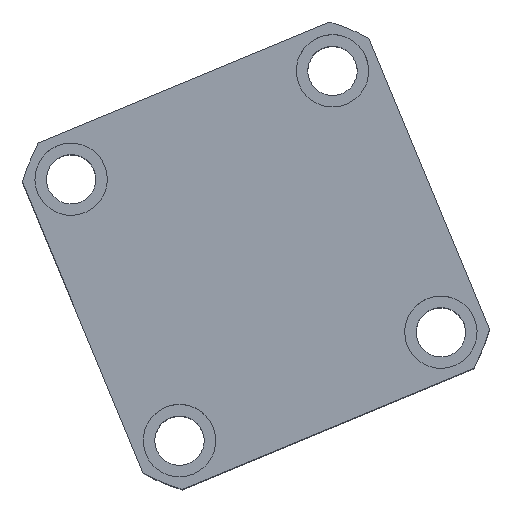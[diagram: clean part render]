
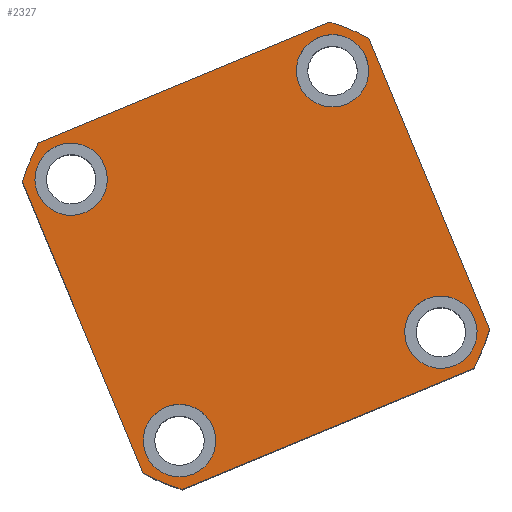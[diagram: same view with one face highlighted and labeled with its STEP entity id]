
A CAD part, top view. The second image highlights one B-rep face of the part: STEP entity #2327.
In plain terms, the highlighted planar face has unit normal (0, 0, 1) as drawn and (0, 0, -1) by its records, which use the part's own axes.
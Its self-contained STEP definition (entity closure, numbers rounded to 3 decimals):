
#234 = CIRCLE ( 'NONE', #5770, 74.5 ) ;
#324 = DIRECTION ( 'NONE',  ( 1., 0., 0. ) ) ;
#359 = DIRECTION ( 'NONE',  ( 0., 0., -1. ) ) ;
#535 = VECTOR ( 'NONE', #4365, 1000. ) ;
#548 = VERTEX_POINT ( 'NONE', #20097 ) ;
#635 = EDGE_CURVE ( 'NONE', #12505, #6672, #7931, .T. ) ;
#694 = CARTESIAN_POINT ( 'NONE',  ( 43., 43., 0. ) ) ;
#735 = DIRECTION ( 'NONE',  ( 1., 0., 0. ) ) ;
#981 = LINE ( 'NONE', #2078, #4204 ) ;
#1013 = ORIENTED_EDGE ( 'NONE', *, *, #20473, .F. ) ;
#1050 = EDGE_CURVE ( 'NONE', #17360, #6897, #17304, .T. ) ;
#1313 = VERTEX_POINT ( 'NONE', #15744 ) ;
#1322 = DIRECTION ( 'NONE',  ( 0., 0., -1. ) ) ;
#1328 = CARTESIAN_POINT ( 'NONE',  ( -32., -43., 0. ) ) ;
#1535 = CARTESIAN_POINT ( 'NONE',  ( 32., -43., 0. ) ) ;
#1641 = CIRCLE ( 'NONE', #3497, 11. ) ;
#1742 = EDGE_LOOP ( 'NONE', ( #1989, #11855 ) ) ;
#1839 = CARTESIAN_POINT ( 'NONE',  ( 43., 43., 0. ) ) ;
#1971 = FACE_BOUND ( 'NONE', #1742, .T. ) ;
#1989 = ORIENTED_EDGE ( 'NONE', *, *, #10946, .F. ) ;
#2046 = DIRECTION ( 'NONE',  ( 0., 0., -1. ) ) ;
#2078 = CARTESIAN_POINT ( 'NONE',  ( -57., 57., 0. ) ) ;
#2264 = DIRECTION ( 'NONE',  ( -1., 0., 0. ) ) ;
#2327 = ADVANCED_FACE ( 'NONE', ( #9867, #1971, #17787, #13539, #9380 ), #7170, .F. ) ;
#2407 = EDGE_CURVE ( 'NONE', #15916, #4663, #16766, .T. ) ;
#2481 = ORIENTED_EDGE ( 'NONE', *, *, #13815, .F. ) ;
#2812 = CARTESIAN_POINT ( 'NONE',  ( -54., 43., 0. ) ) ;
#2848 = CARTESIAN_POINT ( 'NONE',  ( -43., -43., 0. ) ) ;
#2849 = ORIENTED_EDGE ( 'NONE', *, *, #2407, .F. ) ;
#3164 = ORIENTED_EDGE ( 'NONE', *, *, #5039, .F. ) ;
#3384 = CARTESIAN_POINT ( 'NONE',  ( 0., 0., 0. ) ) ;
#3419 = CIRCLE ( 'NONE', #4755, 11. ) ;
#3456 = DIRECTION ( 'NONE',  ( -1., 0., 0. ) ) ;
#3497 = AXIS2_PLACEMENT_3D ( 'NONE', #694, #11703, #2264 ) ;
#4204 = VECTOR ( 'NONE', #13098, 1000. ) ;
#4365 = DIRECTION ( 'NONE',  ( 0., 1., 0. ) ) ;
#4385 = CARTESIAN_POINT ( 'NONE',  ( 57., 57., 0. ) ) ;
#4470 = DIRECTION ( 'NONE',  ( -1., 0., 0. ) ) ;
#4663 = VERTEX_POINT ( 'NONE', #10846 ) ;
#4755 = AXIS2_PLACEMENT_3D ( 'NONE', #2848, #13846, #4470 ) ;
#4881 = DIRECTION ( 'NONE',  ( 0., 0., -1. ) ) ;
#4963 = CARTESIAN_POINT ( 'NONE',  ( -57., 57., 0. ) ) ;
#4973 = AXIS2_PLACEMENT_3D ( 'NONE', #6123, #17104, #7710 ) ;
#5007 = DIRECTION ( 'NONE',  ( 1., 0., 0. ) ) ;
#5039 = EDGE_CURVE ( 'NONE', #548, #12591, #981, .T. ) ;
#5231 = CARTESIAN_POINT ( 'NONE',  ( -57., -47.971, 0. ) ) ;
#5434 = EDGE_LOOP ( 'NONE', ( #2849, #11711 ) ) ;
#5498 = AXIS2_PLACEMENT_3D ( 'NONE', #1839, #12868, #3456 ) ;
#5770 = AXIS2_PLACEMENT_3D ( 'NONE', #19220, #9737, #324 ) ;
#5880 = AXIS2_PLACEMENT_3D ( 'NONE', #9773, #359, #11364 ) ;
#6123 = CARTESIAN_POINT ( 'NONE',  ( 0., 0., 0. ) ) ;
#6672 = VERTEX_POINT ( 'NONE', #7926 ) ;
#6880 = VERTEX_POINT ( 'NONE', #5231 ) ;
#6885 = CIRCLE ( 'NONE', #12297, 11. ) ;
#6897 = VERTEX_POINT ( 'NONE', #8441 ) ;
#6931 = CIRCLE ( 'NONE', #8396, 74.5 ) ;
#7170 = PLANE ( 'NONE',  #9735 ) ;
#7191 = DIRECTION ( 'NONE',  ( 1., 0., 0. ) ) ;
#7412 = DIRECTION ( 'NONE',  ( 0., 0., 1. ) ) ;
#7710 = DIRECTION ( 'NONE',  ( 1., 0., 0. ) ) ;
#7768 = AXIS2_PLACEMENT_3D ( 'NONE', #18012, #8550, #19605 ) ;
#7926 = CARTESIAN_POINT ( 'NONE',  ( 47.971, -57., 0. ) ) ;
#7931 = LINE ( 'NONE', #15328, #12571 ) ;
#7970 = CARTESIAN_POINT ( 'NONE',  ( 0., 0., 0. ) ) ;
#8078 = CIRCLE ( 'NONE', #10491, 74.5 ) ;
#8158 = CARTESIAN_POINT ( 'NONE',  ( -47.971, 57., 0. ) ) ;
#8396 = AXIS2_PLACEMENT_3D ( 'NONE', #19631, #10156, #735 ) ;
#8441 = CARTESIAN_POINT ( 'NONE',  ( 57., 47.971, 0. ) ) ;
#8550 = DIRECTION ( 'NONE',  ( 0., 0., -1. ) ) ;
#9258 = ORIENTED_EDGE ( 'NONE', *, *, #15611, .F. ) ;
#9380 = FACE_OUTER_BOUND ( 'NONE', #10855, .T. ) ;
#9660 = ORIENTED_EDGE ( 'NONE', *, *, #11215, .F. ) ;
#9735 = AXIS2_PLACEMENT_3D ( 'NONE', #7970, #7412, #7191 ) ;
#9737 = DIRECTION ( 'NONE',  ( 0., 0., 1. ) ) ;
#9773 = CARTESIAN_POINT ( 'NONE',  ( -43., 43., 0. ) ) ;
#9867 = FACE_BOUND ( 'NONE', #14727, .T. ) ;
#9879 = CARTESIAN_POINT ( 'NONE',  ( -57., 47.971, 0. ) ) ;
#10017 = ORIENTED_EDGE ( 'NONE', *, *, #10747, .F. ) ;
#10156 = DIRECTION ( 'NONE',  ( 0., 0., 1. ) ) ;
#10253 = VECTOR ( 'NONE', #17538, 1000. ) ;
#10483 = VERTEX_POINT ( 'NONE', #9879 ) ;
#10491 = AXIS2_PLACEMENT_3D ( 'NONE', #3384, #14374, #5007 ) ;
#10731 = VERTEX_POINT ( 'NONE', #1328 ) ;
#10747 = EDGE_CURVE ( 'NONE', #6672, #17360, #13455, .T. ) ;
#10846 = CARTESIAN_POINT ( 'NONE',  ( -32., 43., 0. ) ) ;
#10855 = EDGE_LOOP ( 'NONE', ( #12466, #13427, #10017, #15150, #13951, #19200, #11752, #3164 ) ) ;
#10946 = EDGE_CURVE ( 'NONE', #11760, #18930, #6885, .T. ) ;
#11055 = CARTESIAN_POINT ( 'NONE',  ( 54., -43., 0. ) ) ;
#11215 = EDGE_CURVE ( 'NONE', #11383, #12207, #1641, .T. ) ;
#11242 = CIRCLE ( 'NONE', #5498, 11. ) ;
#11364 = DIRECTION ( 'NONE',  ( -1., 0., 0. ) ) ;
#11383 = VERTEX_POINT ( 'NONE', #18487 ) ;
#11485 = CARTESIAN_POINT ( 'NONE',  ( -43., -43., 0. ) ) ;
#11703 = DIRECTION ( 'NONE',  ( 0., 0., -1. ) ) ;
#11711 = ORIENTED_EDGE ( 'NONE', *, *, #12657, .F. ) ;
#11752 = ORIENTED_EDGE ( 'NONE', *, *, #15557, .F. ) ;
#11760 = VERTEX_POINT ( 'NONE', #1535 ) ;
#11810 = EDGE_CURVE ( 'NONE', #10483, #6880, #18689, .T. ) ;
#11855 = ORIENTED_EDGE ( 'NONE', *, *, #15115, .F. ) ;
#12207 = VERTEX_POINT ( 'NONE', #18577 ) ;
#12297 = AXIS2_PLACEMENT_3D ( 'NONE', #14258, #4881, #15840 ) ;
#12364 = CARTESIAN_POINT ( 'NONE',  ( -43., 43., 0. ) ) ;
#12466 = ORIENTED_EDGE ( 'NONE', *, *, #16814, .F. ) ;
#12505 = VERTEX_POINT ( 'NONE', #19133 ) ;
#12571 = VECTOR ( 'NONE', #16692, 1000. ) ;
#12591 = VERTEX_POINT ( 'NONE', #8158 ) ;
#12657 = EDGE_CURVE ( 'NONE', #4663, #15916, #16948, .T. ) ;
#12868 = DIRECTION ( 'NONE',  ( 0., 0., -1. ) ) ;
#12901 = AXIS2_PLACEMENT_3D ( 'NONE', #12364, #1322, #17874 ) ;
#13066 = DIRECTION ( 'NONE',  ( -1., 0., 0. ) ) ;
#13098 = DIRECTION ( 'NONE',  ( -1., 0., 0. ) ) ;
#13427 = ORIENTED_EDGE ( 'NONE', *, *, #1050, .F. ) ;
#13455 = CIRCLE ( 'NONE', #4973, 74.5 ) ;
#13539 = FACE_BOUND ( 'NONE', #5434, .T. ) ;
#13815 = EDGE_CURVE ( 'NONE', #1313, #10731, #17444, .T. ) ;
#13846 = DIRECTION ( 'NONE',  ( 0., 0., -1. ) ) ;
#13951 = ORIENTED_EDGE ( 'NONE', *, *, #18513, .F. ) ;
#14152 = AXIS2_PLACEMENT_3D ( 'NONE', #11485, #2046, #13066 ) ;
#14186 = CIRCLE ( 'NONE', #7768, 11. ) ;
#14258 = CARTESIAN_POINT ( 'NONE',  ( 43., -43., 0. ) ) ;
#14374 = DIRECTION ( 'NONE',  ( 0., 0., 1. ) ) ;
#14727 = EDGE_LOOP ( 'NONE', ( #2481, #1013 ) ) ;
#15115 = EDGE_CURVE ( 'NONE', #18930, #11760, #14186, .T. ) ;
#15150 = ORIENTED_EDGE ( 'NONE', *, *, #635, .F. ) ;
#15220 = EDGE_LOOP ( 'NONE', ( #9660, #9258 ) ) ;
#15328 = CARTESIAN_POINT ( 'NONE',  ( -57., -57., 0. ) ) ;
#15557 = EDGE_CURVE ( 'NONE', #12591, #10483, #8078, .T. ) ;
#15611 = EDGE_CURVE ( 'NONE', #12207, #11383, #11242, .T. ) ;
#15615 = CARTESIAN_POINT ( 'NONE',  ( 57., -47.971, 0. ) ) ;
#15744 = CARTESIAN_POINT ( 'NONE',  ( -54., -43., 0. ) ) ;
#15840 = DIRECTION ( 'NONE',  ( -1., 0., 0. ) ) ;
#15916 = VERTEX_POINT ( 'NONE', #2812 ) ;
#16692 = DIRECTION ( 'NONE',  ( 1., 0., 0. ) ) ;
#16766 = CIRCLE ( 'NONE', #12901, 11. ) ;
#16814 = EDGE_CURVE ( 'NONE', #6897, #548, #234, .T. ) ;
#16948 = CIRCLE ( 'NONE', #5880, 11. ) ;
#17104 = DIRECTION ( 'NONE',  ( 0., 0., 1. ) ) ;
#17304 = LINE ( 'NONE', #4385, #535 ) ;
#17360 = VERTEX_POINT ( 'NONE', #15615 ) ;
#17444 = CIRCLE ( 'NONE', #14152, 11. ) ;
#17538 = DIRECTION ( 'NONE',  ( 0., -1., 0. ) ) ;
#17787 = FACE_BOUND ( 'NONE', #15220, .T. ) ;
#17874 = DIRECTION ( 'NONE',  ( -1., 0., 0. ) ) ;
#18012 = CARTESIAN_POINT ( 'NONE',  ( 43., -43., 0. ) ) ;
#18487 = CARTESIAN_POINT ( 'NONE',  ( 32., 43., 0. ) ) ;
#18513 = EDGE_CURVE ( 'NONE', #6880, #12505, #6931, .T. ) ;
#18577 = CARTESIAN_POINT ( 'NONE',  ( 54., 43., 0. ) ) ;
#18689 = LINE ( 'NONE', #4963, #10253 ) ;
#18930 = VERTEX_POINT ( 'NONE', #11055 ) ;
#19133 = CARTESIAN_POINT ( 'NONE',  ( -47.971, -57., 0. ) ) ;
#19200 = ORIENTED_EDGE ( 'NONE', *, *, #11810, .F. ) ;
#19220 = CARTESIAN_POINT ( 'NONE',  ( 0., 0., 0. ) ) ;
#19605 = DIRECTION ( 'NONE',  ( -1., 0., 0. ) ) ;
#19631 = CARTESIAN_POINT ( 'NONE',  ( 0., 0., 0. ) ) ;
#20097 = CARTESIAN_POINT ( 'NONE',  ( 47.971, 57., 0. ) ) ;
#20473 = EDGE_CURVE ( 'NONE', #10731, #1313, #3419, .T. ) ;
